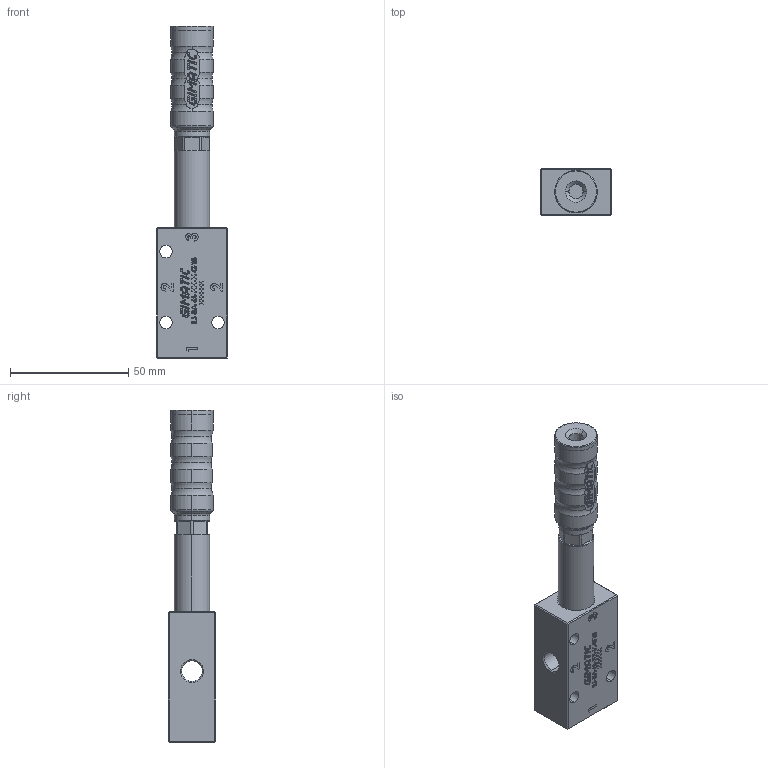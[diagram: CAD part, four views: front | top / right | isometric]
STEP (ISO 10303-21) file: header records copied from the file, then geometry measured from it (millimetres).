
FILE_DESCRIPTION (( 'STEP AP203' ), '1' );
FILE_NAME ('3330058.STEP', '2020-11-27T14:35:44', ( '' ), ( '' ), 'SwSTEP 2.0', 'SolidWorks 2020', '' );
FILE_SCHEMA (( 'CONFIG_CONTROL_DESIGN' ));
Length unit declared in the file: millimetre
Products named in the file (2): Copia di 3330058-AS01^3330058; 3330058
Assembly tree (1 placements, depth 2):
  3330058
    Copia di 3330058-AS01^3330058
Bounding box: 30 x 20 x 140.4 mm (x, y, z)
Volume: 45903.6 mm3; surface area: 21506.3 mm2
Topology: 7 solids, 10 shells, 893 faces, 2056 edges, 1336 vertices
Faces by surface type: plane 430, cylinder 323, bspline 68, cone 48, torus 24
Entity records: 29233 total; most frequent: CARTESIAN_POINT 8621, DIRECTION 4235, ORIENTED_EDGE 4112, EDGE_CURVE 2056, AXIS2_PLACEMENT_3D 1550, VERTEX_POINT 1336, VECTOR 1135, LINE 1135
